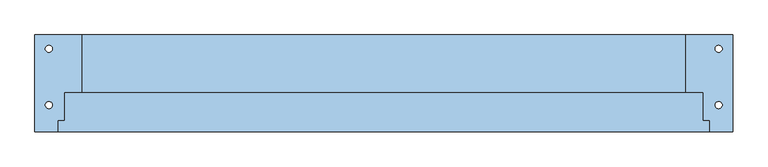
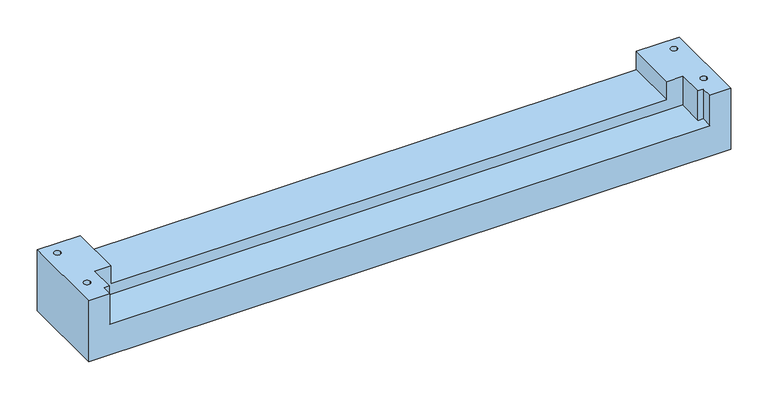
"""IFC4 building model written with IfcOpenShell, lengths in millimetres: window geometry, 30_NS_BU_67-72 : BU-72_neut30."""

from ifc_helpers import new_model, si_unit, frame, origin, place, context, project, spatial, polyline, circle_curve, source, transform, mapped, element, save
from ifc_brep_helpers import plane_surface, revolved_surface, advanced_brep


def window_d5391055(model_context):
    return source(origin(), model_context, "Body", "AdvancedBrep", [
        advanced_brep(
        [(0.0, -139.0, 0.0), (0.0, 0.0, 0.0), (1000.0, 0.0, 0.0), (1000.0, -139.0, 0.0), (15.0, -100.4521719, 0.0), (25.0, -100.4521719, 0.0), (15.0, -20.0, 0.0), (25.0, -20.0, 0.0), (975.0, -20.0, 0.0), (985.0, -20.0, 0.0), (975.0, -100.4521719, 0.0), (985.0, -100.4521719, 0.0), (67.0, 0.0, 100.0), (0.0, 0.0, 100.0), (0.0, -139.0, 100.0), (33.0, -139.0, 100.0), (33.0, -122.0, 100.0), (42.0, -122.0, 100.0), (42.0, -82.0, 100.0), (67.0, -82.0, 100.0), (25.0, -100.4521719, 100.0), (15.0, -100.4521719, 100.0), (25.0, -20.0, 100.0), (15.0, -20.0, 100.0), (1000.0, 0.0, 100.0), (1000.0, -139.0, 100.0), (42.0, -82.0, 52.6427741), (42.0, -122.0, 50.9631857), (33.0, -122.0, 50.9631857), (33.0, -139.0, 50.2493606), (967.0, -139.0, 50.2493606), (967.0, -122.0, 50.9631857), (958.0, -122.0, 50.9631857), (958.0, -82.0, 52.6427741), (975.0, -20.0, 100.0), (985.0, -20.0, 100.0), (975.0, -100.4521719, 100.0), (985.0, -100.4521719, 100.0), (958.0, -82.0, 100.0), (933.0, -82.0, 100.0), (933.0, -82.0, 70.0), (67.0, -82.0, 70.0), (967.0, -139.0, 100.0), (67.0, 0.0, 70.0), (933.0, 0.0, 70.0), (933.0, 0.0, 100.0), (967.0, -122.0, 100.0), (958.0, -122.0, 100.0)],
        [
            (0, 1),
            (1, 2),
            (2, 3),
            (3, 0),
            (4, 5, circle_curve(frame((20.0, -100.4521719, 0.0), z_axis=(0.0, 0.0, 1.0), x_axis=(1.0, 0.0, 0.0)), 5.0)),
            (5, 4, circle_curve(frame((20.0, -100.4521719, 0.0), z_axis=(0.0, 0.0, 1.0), x_axis=(1.0, 0.0, 0.0)), 5.0)),
            (6, 7, circle_curve(frame((20.0, -20.0, 0.0), z_axis=(0.0, 0.0, 1.0), x_axis=(1.0, 0.0, 0.0)), 5.0)),
            (7, 6, circle_curve(frame((20.0, -20.0, 0.0), z_axis=(0.0, 0.0, 1.0), x_axis=(1.0, 0.0, 0.0)), 5.0)),
            (8, 9, circle_curve(frame((980.0, -20.0, 0.0), z_axis=(0.0, 0.0, 1.0), x_axis=(1.0, 0.0, 0.0)), 5.0)),
            (9, 8, circle_curve(frame((980.0, -20.0, 0.0), z_axis=(0.0, 0.0, 1.0), x_axis=(1.0, 0.0, 0.0)), 5.0)),
            (10, 11, circle_curve(frame((980.0, -100.4521719, 0.0), z_axis=(0.0, 0.0, 1.0), x_axis=(1.0, 0.0, 0.0)), 5.0)),
            (11, 10, circle_curve(frame((980.0, -100.4521719, 0.0), z_axis=(0.0, 0.0, 1.0), x_axis=(1.0, 0.0, 0.0)), 5.0)),
            (12, 13),
            (13, 14),
            (14, 15),
            (15, 16),
            (16, 17),
            (17, 18),
            (18, 19),
            (19, 12),
            (20, 21, circle_curve(frame((20.0, -100.4521719, 100.0), z_axis=(0.0, 0.0, -1.0), x_axis=(1.0, 0.0, 0.0)), 5.0)),
            (21, 20, circle_curve(frame((20.0, -100.4521719, 100.0), z_axis=(0.0, 0.0, -1.0), x_axis=(1.0, 0.0, 0.0)), 5.0)),
            (22, 23, circle_curve(frame((20.0, -20.0, 100.0), z_axis=(0.0, 0.0, -1.0), x_axis=(1.0, 0.0, 0.0)), 5.0)),
            (23, 22, circle_curve(frame((20.0, -20.0, 100.0), z_axis=(0.0, 0.0, -1.0), x_axis=(1.0, 0.0, 0.0)), 5.0)),
            (2, 24),
            (24, 25),
            (25, 3),
            (26, 27),
            (27, 28),
            (28, 29),
            (29, 30),
            (30, 31),
            (31, 32),
            (32, 33),
            (33, 26),
            (4, 21),
            (20, 5),
            (6, 23),
            (22, 7),
            (8, 34),
            (34, 35, circle_curve(frame((980.0, -20.0, 100.0), z_axis=(0.0, 0.0, 1.0), x_axis=(1.0, 0.0, 0.0)), 5.0)),
            (35, 9),
            (35, 34, circle_curve(frame((980.0, -20.0, 100.0), z_axis=(0.0, 0.0, 1.0), x_axis=(1.0, 0.0, 0.0)), 5.0)),
            (10, 36),
            (36, 37, circle_curve(frame((980.0, -100.4521719, 100.0), z_axis=(0.0, 0.0, 1.0), x_axis=(1.0, 0.0, 0.0)), 5.0)),
            (37, 11),
            (37, 36, circle_curve(frame((980.0, -100.4521719, 100.0), z_axis=(0.0, 0.0, 1.0), x_axis=(1.0, 0.0, 0.0)), 5.0)),
            (18, 26),
            (33, 38),
            (38, 39),
            (39, 40),
            (40, 41),
            (41, 19),
            (17, 27),
            (16, 28),
            (15, 29),
            (14, 0),
            (25, 42),
            (42, 30),
            (13, 1),
            (12, 43),
            (43, 44),
            (44, 45),
            (45, 24),
            (42, 46),
            (46, 31),
            (46, 47),
            (47, 32),
            (47, 38),
            (43, 41),
            (40, 44),
            (45, 39),
        ],
        [
            plane_surface(frame((0.0, 0.0, 0.0), z_axis=(0.0, 0.0, -1.0), x_axis=(1.0, 0.0, 0.0))),
            plane_surface(frame((0.0, 0.0, 100.0), z_axis=(0.0, 0.0, 1.0), x_axis=(1.0, 0.0, 0.0))),
            plane_surface(frame((1000.0, 0.0, 0.0), z_axis=(1.0, 0.0, 0.0), x_axis=(0.0, 0.0, 1.0))),
            plane_surface(frame((0.0, -139.0, 50.2493606), z_axis=(0.0, -0.04195274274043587, 0.9991195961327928), x_axis=(1.0, 0.0, 0.0))),
            revolved_surface(polyline([(25.0, -100.4521719, 0.0), (25.0, -100.4521719, 100.0)]), (20.0, -100.4521719, 0.0), (0.0, 0.0, -1.0)),
            revolved_surface(polyline([(25.0, -20.0, 0.0), (25.0, -20.0, 100.0)]), (20.0, -20.0, 0.0), (0.0, 0.0, -1.0)),
            revolved_surface(polyline([(985.0, -20.0, 0.0), (985.0, -20.0, 100.0)]), (980.0, -20.0, 0.0), (0.0, 0.0, -1.0)),
            revolved_surface(polyline([(985.0, -100.4521719, 0.0), (985.0, -100.4521719, 100.0)]), (980.0, -100.4521719, 0.0), (0.0, 0.0, -1.0)),
            plane_surface(frame((67.0, -82.0, 0.0), z_axis=(0.0, -1.0, 0.0), x_axis=(0.0, 0.0, 1.0))),
            plane_surface(frame((42.0, -82.0, 0.0), z_axis=(1.0, 0.0, 0.0), x_axis=(0.0, 0.0, 1.0))),
            plane_surface(frame((42.0, -122.0, 0.0), z_axis=(0.0, -1.0, 0.0), x_axis=(0.0, 0.0, 1.0))),
            plane_surface(frame((33.0, -122.0, 0.0), z_axis=(1.0, 0.0, 0.0), x_axis=(0.0, 0.0, 1.0))),
            plane_surface(frame((33.0, -139.0, 0.0), z_axis=(0.0, -1.0, 0.0), x_axis=(0.0, 0.0, 1.0))),
            plane_surface(frame((0.0, -139.0, 0.0), z_axis=(-1.0, 0.0, 0.0), x_axis=(0.0, 0.0, 1.0))),
            plane_surface(frame((0.0, 0.0, 0.0), z_axis=(0.0, 1.0, 0.0), x_axis=(0.0, 0.0, 1.0))),
            plane_surface(frame((967.0, -139.0, 0.0), z_axis=(-1.0, 0.0, 0.0), x_axis=(0.0, 0.0, 1.0))),
            plane_surface(frame((967.0, -122.0, 0.0), z_axis=(0.0, -1.0, 0.0), x_axis=(0.0, 0.0, 1.0))),
            plane_surface(frame((958.0, -122.0, 0.0), z_axis=(-1.0, 0.0, 0.0), x_axis=(0.0, 0.0, 1.0))),
            plane_surface(frame((0.0, -82.0, 70.0), z_axis=(0.0, 0.0, 1.0), x_axis=(1.0, 0.0, 0.0))),
            plane_surface(frame((1000.0, 0.0, 100.0), z_axis=(0.0, 0.0, 1.0), x_axis=(1.0, 0.0, 0.0))),
            plane_surface(frame((67.0, 0.0, 0.0), z_axis=(1.0, 0.0, 0.0), x_axis=(0.0, 0.0, 1.0))),
            plane_surface(frame((933.0, -82.0, 0.0), z_axis=(-1.0, 0.0, 0.0), x_axis=(0.0, 0.0, 1.0))),
        ],
        [
            (0, [[1, 2, 3, 4], [5, 6], [7, 8], [9, 10], [11, 12]]),
            (1, [[13, 14, 15, 16, 17, 18, 19, 20], [21, 22], [23, 24]]),
            (2, [[-3, 25, 26, 27]]),
            (3, [[28, 29, 30, 31, 32, 33, 34, 35]]),
            (4, [[36, -21, 37, -5]]),
            (4, [[-36, -6, -37, -22]]),
            (5, [[38, -23, 39, -7]]),
            (5, [[-38, -8, -39, -24]]),
            (6, [[40, 41, 42, -9]]),
            (6, [[-40, -10, -42, 43]]),
            (7, [[44, 45, 46, -11]]),
            (7, [[-44, -12, -46, 47]]),
            (8, [[-19, 48, -35, 49, 50, 51, 52, 53]]),
            (9, [[-18, 54, -28, -48]]),
            (10, [[-17, 55, -29, -54]]),
            (11, [[-16, 56, -30, -55]]),
            (12, [[-15, 57, -4, -27, 58, 59, -31, -56]]),
            (13, [[-1, -57, -14, 60]]),
            (14, [[-13, 61, 62, 63, 64, -25, -2, -60]]),
            (15, [[65, 66, -32, -59]]),
            (16, [[67, 68, -33, -66]]),
            (17, [[69, -49, -34, -68]]),
            (18, [[70, -52, 71, -62]]),
            (19, [[72, -50, -69, -67, -65, -58, -26, -64], [-41, -43], [-45, -47]]),
            (20, [[-20, -53, -70, -61]]),
            (21, [[-72, -63, -71, -51]]),
        ],
    ),
    ])


if __name__ == "__main__":
    model = new_model("IFC4")
    model_context = context("Model", 3, world=origin())
    ifc_project = project(units=[si_unit("LENGTHUNIT", "METRE", prefix="MILLI")], contexts=[model_context])
    site = spatial("IfcSite", under=ifc_project)
    building = spatial("IfcBuilding", under=site)
    placement = place(None, origin())
    window_shape = window_d5391055(model_context)
    element("IfcWindow", 1, ObjectType="30_NS_BU_67-72 : BU-72_neut30", at=placement, inside=building, context=model_context, shape_type="MappedRepresentation", body=[
        mapped(window_shape, transform((0.0, 0.0, 0.0), x_axis=(1.0, 0.0, 0.0), y_axis=(0.0, 1.0, 0.0), z_axis=(0.0, 0.0, 1.0))),
    ])
    save(model, "model.ifc")
